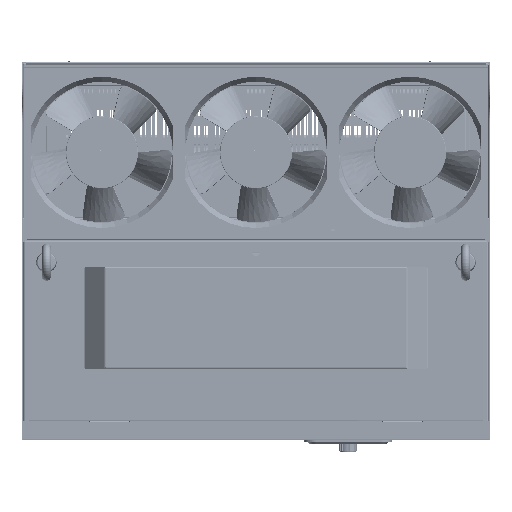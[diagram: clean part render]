
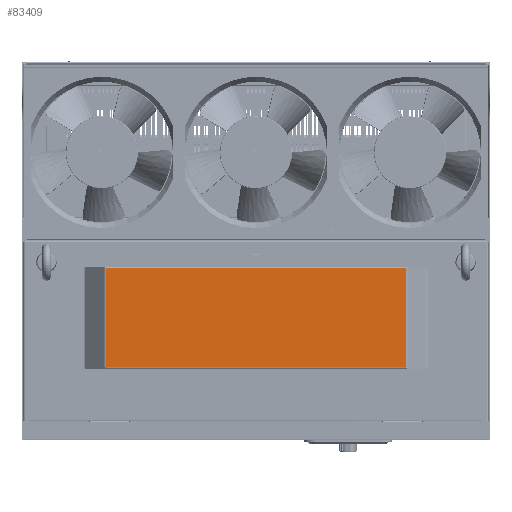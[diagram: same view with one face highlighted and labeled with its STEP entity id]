
A CAD part, left-side view. The second image highlights one B-rep face of the part: STEP entity #83409.
In plain terms, the highlighted planar face has unit normal (-1, 0, 0).
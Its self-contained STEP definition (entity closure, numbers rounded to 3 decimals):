
#71457=CARTESIAN_POINT('',(0.,-50.8,-154.296));
#71475=DIRECTION('',(0.,-1.,0.));
#71476=VECTOR('',#71475,101.6);
#71477=CARTESIAN_POINT('',(0.,50.8,-154.296));
#71478=LINE('',#71477,#71476);
#71605=CARTESIAN_POINT('',(0.,50.8,154.296));
#71623=DIRECTION('',(0.,1.,0.));
#71624=VECTOR('',#71623,101.6);
#71625=CARTESIAN_POINT('',(0.,-50.8,154.296));
#71626=LINE('',#71625,#71624);
#71667=DIRECTION('',(0.,0.,-1.));
#71668=VECTOR('',#71667,308.592);
#71669=CARTESIAN_POINT('',(0.,50.8,154.296));
#71670=LINE('',#71669,#71668);
#73273=DIRECTION('',(0.,0.,1.));
#73274=VECTOR('',#73273,308.592);
#73275=CARTESIAN_POINT('',(0.,-50.8,-154.296));
#73276=LINE('',#73275,#73274);
#76422=CARTESIAN_POINT('',(0.,50.8,-154.296));
#76423=VERTEX_POINT('',#76422);
#76455=VERTEX_POINT('',#71457);
#76466=CARTESIAN_POINT('',(0.,-50.8,154.296));
#76467=VERTEX_POINT('',#76466);
#76497=VERTEX_POINT('',#71605);
#83397=CARTESIAN_POINT('',(0.,0.,0.));
#83398=DIRECTION('',(1.,0.,0.));
#83399=DIRECTION('',(0.,0.,-1.));
#83400=AXIS2_PLACEMENT_3D('',#83397,#83398,#83399);
#83401=PLANE('',#83400);
#83403=ORIENTED_EDGE('',*,*,#83402,.F.);
#83404=ORIENTED_EDGE('',*,*,#78675,.F.);
#83405=ORIENTED_EDGE('',*,*,#79277,.F.);
#83406=ORIENTED_EDGE('',*,*,#79137,.F.);
#83407=EDGE_LOOP('',(#83403,#83404,#83405,#83406));
#83408=FACE_OUTER_BOUND('',#83407,.F.);
#78675=EDGE_CURVE('',#76423,#76455,#71478,.T.);
#79137=EDGE_CURVE('',#76467,#76497,#71626,.T.);
#79277=EDGE_CURVE('',#76497,#76423,#71670,.T.);
#83402=EDGE_CURVE('',#76455,#76467,#73276,.T.);
#83409=ADVANCED_FACE('',(#83408),#83401,.F.);
